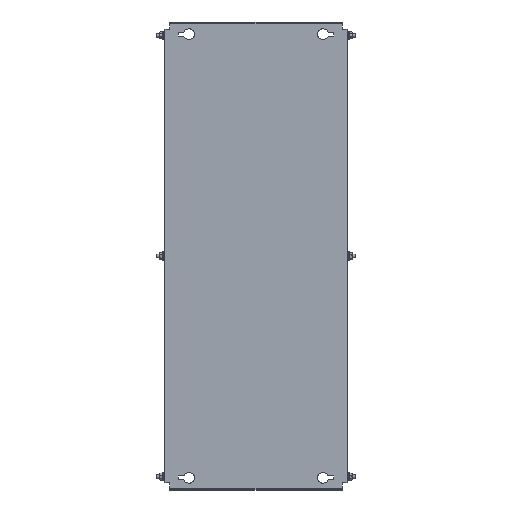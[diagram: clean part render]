
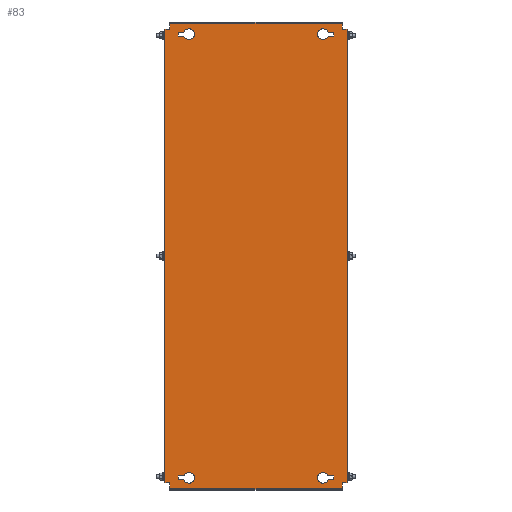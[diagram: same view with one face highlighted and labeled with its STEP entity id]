
A CAD part, top view. The second image highlights one B-rep face of the part: STEP entity #83.
In plain terms, the highlighted planar face has unit normal (0, 0, 1).
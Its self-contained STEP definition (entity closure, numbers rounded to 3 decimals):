
#83 = ADVANCED_FACE('',(#84,#119,#154,#316,#351),#386,.T.);
#84 = FACE_BOUND('',#85,.T.);
#85 = EDGE_LOOP('',(#86,#96,#104,#112));
#86 = ORIENTED_EDGE('',*,*,#87,.T.);
#87 = EDGE_CURVE('',#88,#90,#92,.T.);
#88 = VERTEX_POINT('',#89);
#89 = CARTESIAN_POINT('',(118.393,367.75,2.));
#90 = VERTEX_POINT('',#91);
#91 = CARTESIAN_POINT('',(128.,367.75,2.));
#92 = LINE('',#93,#94);
#93 = CARTESIAN_POINT('',(127.,367.75,2.));
#94 = VECTOR('',#95,1.);
#95 = DIRECTION('',(1.,0.,0.));
#96 = ORIENTED_EDGE('',*,*,#97,.T.);
#97 = EDGE_CURVE('',#90,#98,#100,.T.);
#98 = VERTEX_POINT('',#99);
#99 = CARTESIAN_POINT('',(128.,361.25,2.));
#100 = LINE('',#101,#102);
#101 = CARTESIAN_POINT('',(128.,367.75,2.));
#102 = VECTOR('',#103,1.);
#103 = DIRECTION('',(0.,-1.,0.));
#104 = ORIENTED_EDGE('',*,*,#105,.T.);
#105 = EDGE_CURVE('',#98,#106,#108,.T.);
#106 = VERTEX_POINT('',#107);
#107 = CARTESIAN_POINT('',(118.393,361.25,2.));
#108 = LINE('',#109,#110);
#109 = CARTESIAN_POINT('',(127.,361.25,2.));
#110 = VECTOR('',#111,1.);
#111 = DIRECTION('',(-1.,0.,0.));
#112 = ORIENTED_EDGE('',*,*,#113,.T.);
#113 = EDGE_CURVE('',#106,#88,#114,.T.);
#114 = CIRCLE('',#115,9.);
#115 = AXIS2_PLACEMENT_3D('',#116,#117,#118);
#116 = CARTESIAN_POINT('',(110.,364.5,2.));
#117 = DIRECTION('',(0.,0.,-1.));
#118 = DIRECTION('',(1.,0.,0.));
#119 = FACE_BOUND('',#120,.T.);
#120 = EDGE_LOOP('',(#121,#131,#139,#147));
#121 = ORIENTED_EDGE('',*,*,#122,.T.);
#122 = EDGE_CURVE('',#123,#125,#127,.T.);
#123 = VERTEX_POINT('',#124);
#124 = CARTESIAN_POINT('',(-118.393,-367.75,2.));
#125 = VERTEX_POINT('',#126);
#126 = CARTESIAN_POINT('',(-128.,-367.75,2.));
#127 = LINE('',#128,#129);
#128 = CARTESIAN_POINT('',(-127.,-367.75,2.));
#129 = VECTOR('',#130,1.);
#130 = DIRECTION('',(-1.,0.,0.));
#131 = ORIENTED_EDGE('',*,*,#132,.T.);
#132 = EDGE_CURVE('',#125,#133,#135,.T.);
#133 = VERTEX_POINT('',#134);
#134 = CARTESIAN_POINT('',(-128.,-361.25,2.));
#135 = LINE('',#136,#137);
#136 = CARTESIAN_POINT('',(-128.,-367.75,2.));
#137 = VECTOR('',#138,1.);
#138 = DIRECTION('',(0.,1.,0.));
#139 = ORIENTED_EDGE('',*,*,#140,.T.);
#140 = EDGE_CURVE('',#133,#141,#143,.T.);
#141 = VERTEX_POINT('',#142);
#142 = CARTESIAN_POINT('',(-118.393,-361.25,2.));
#143 = LINE('',#144,#145);
#144 = CARTESIAN_POINT('',(-127.,-361.25,2.));
#145 = VECTOR('',#146,1.);
#146 = DIRECTION('',(1.,-0.,-0.));
#147 = ORIENTED_EDGE('',*,*,#148,.T.);
#148 = EDGE_CURVE('',#141,#123,#149,.T.);
#149 = CIRCLE('',#150,9.);
#150 = AXIS2_PLACEMENT_3D('',#151,#152,#153);
#151 = CARTESIAN_POINT('',(-110.,-364.5,2.));
#152 = DIRECTION('',(0.,0.,-1.));
#153 = DIRECTION('',(-1.,0.,0.));
#154 = FACE_BOUND('',#155,.T.);
#155 = EDGE_LOOP('',(#156,#166,#174,#182,#190,#198,#206,#214,#222,#230,
    #238,#246,#254,#262,#270,#278,#286,#294,#302,#310));
#156 = ORIENTED_EDGE('',*,*,#157,.F.);
#157 = EDGE_CURVE('',#158,#160,#162,.T.);
#158 = VERTEX_POINT('',#159);
#159 = CARTESIAN_POINT('',(-147.4,372.5,2.));
#160 = VERTEX_POINT('',#161);
#161 = CARTESIAN_POINT('',(-142.,372.5,2.));
#162 = LINE('',#163,#164);
#163 = CARTESIAN_POINT('',(-148.,372.5,2.));
#164 = VECTOR('',#165,1.);
#165 = DIRECTION('',(1.,0.,-0.));
#166 = ORIENTED_EDGE('',*,*,#167,.T.);
#167 = EDGE_CURVE('',#158,#168,#170,.T.);
#168 = VERTEX_POINT('',#169);
#169 = CARTESIAN_POINT('',(-150.,372.5,2.));
#170 = LINE('',#171,#172);
#171 = CARTESIAN_POINT('',(-147.4,372.5,2.));
#172 = VECTOR('',#173,1.);
#173 = DIRECTION('',(-1.,0.,0.));
#174 = ORIENTED_EDGE('',*,*,#175,.F.);
#175 = EDGE_CURVE('',#176,#168,#178,.T.);
#176 = VERTEX_POINT('',#177);
#177 = CARTESIAN_POINT('',(-150.,-372.5,2.));
#178 = LINE('',#179,#180);
#179 = CARTESIAN_POINT('',(-150.,-382.5,2.));
#180 = VECTOR('',#181,1.);
#181 = DIRECTION('',(0.,1.,-0.));
#182 = ORIENTED_EDGE('',*,*,#183,.F.);
#183 = EDGE_CURVE('',#184,#176,#186,.T.);
#184 = VERTEX_POINT('',#185);
#185 = CARTESIAN_POINT('',(-147.4,-372.5,2.));
#186 = LINE('',#187,#188);
#187 = CARTESIAN_POINT('',(-142.,-372.5,2.));
#188 = VECTOR('',#189,1.);
#189 = DIRECTION('',(-1.,-0.,-0.));
#190 = ORIENTED_EDGE('',*,*,#191,.T.);
#191 = EDGE_CURVE('',#184,#192,#194,.T.);
#192 = VERTEX_POINT('',#193);
#193 = CARTESIAN_POINT('',(-142.,-372.5,2.));
#194 = LINE('',#195,#196);
#195 = CARTESIAN_POINT('',(-148.,-372.5,2.));
#196 = VECTOR('',#197,1.);
#197 = DIRECTION('',(1.,0.,-0.));
#198 = ORIENTED_EDGE('',*,*,#199,.T.);
#199 = EDGE_CURVE('',#192,#200,#202,.T.);
#200 = VERTEX_POINT('',#201);
#201 = CARTESIAN_POINT('',(-142.,-381.9,2.));
#202 = LINE('',#203,#204);
#203 = CARTESIAN_POINT('',(-142.,382.5,2.));
#204 = VECTOR('',#205,1.);
#205 = DIRECTION('',(0.,-1.,0.));
#206 = ORIENTED_EDGE('',*,*,#207,.T.);
#207 = EDGE_CURVE('',#200,#208,#210,.T.);
#208 = VERTEX_POINT('',#209);
#209 = CARTESIAN_POINT('',(-142.,-382.5,2.));
#210 = LINE('',#211,#212);
#211 = CARTESIAN_POINT('',(-142.,-381.9,2.));
#212 = VECTOR('',#213,1.);
#213 = DIRECTION('',(-0.,-1.,-0.));
#214 = ORIENTED_EDGE('',*,*,#215,.T.);
#215 = EDGE_CURVE('',#208,#216,#218,.T.);
#216 = VERTEX_POINT('',#217);
#217 = CARTESIAN_POINT('',(142.,-382.5,2.));
#218 = LINE('',#219,#220);
#219 = CARTESIAN_POINT('',(142.,-382.5,2.));
#220 = VECTOR('',#221,1.);
#221 = DIRECTION('',(1.,0.,0.));
#222 = ORIENTED_EDGE('',*,*,#223,.F.);
#223 = EDGE_CURVE('',#224,#216,#226,.T.);
#224 = VERTEX_POINT('',#225);
#225 = CARTESIAN_POINT('',(142.,-381.9,2.));
#226 = LINE('',#227,#228);
#227 = CARTESIAN_POINT('',(142.,-382.5,2.));
#228 = VECTOR('',#229,1.);
#229 = DIRECTION('',(0.,-1.,0.));
#230 = ORIENTED_EDGE('',*,*,#231,.T.);
#231 = EDGE_CURVE('',#224,#232,#234,.T.);
#232 = VERTEX_POINT('',#233);
#233 = CARTESIAN_POINT('',(142.,-372.5,2.));
#234 = LINE('',#235,#236);
#235 = CARTESIAN_POINT('',(142.,382.5,2.));
#236 = VECTOR('',#237,1.);
#237 = DIRECTION('',(0.,1.,-0.));
#238 = ORIENTED_EDGE('',*,*,#239,.F.);
#239 = EDGE_CURVE('',#240,#232,#242,.T.);
#240 = VERTEX_POINT('',#241);
#241 = CARTESIAN_POINT('',(147.4,-372.5,2.));
#242 = LINE('',#243,#244);
#243 = CARTESIAN_POINT('',(148.,-372.5,2.));
#244 = VECTOR('',#245,1.);
#245 = DIRECTION('',(-1.,0.,-0.));
#246 = ORIENTED_EDGE('',*,*,#247,.T.);
#247 = EDGE_CURVE('',#240,#248,#250,.T.);
#248 = VERTEX_POINT('',#249);
#249 = CARTESIAN_POINT('',(150.,-372.5,2.));
#250 = LINE('',#251,#252);
#251 = CARTESIAN_POINT('',(147.4,-372.5,2.));
#252 = VECTOR('',#253,1.);
#253 = DIRECTION('',(1.,-0.,0.));
#254 = ORIENTED_EDGE('',*,*,#255,.F.);
#255 = EDGE_CURVE('',#256,#248,#258,.T.);
#256 = VERTEX_POINT('',#257);
#257 = CARTESIAN_POINT('',(150.,372.5,2.));
#258 = LINE('',#259,#260);
#259 = CARTESIAN_POINT('',(150.,-382.5,2.));
#260 = VECTOR('',#261,1.);
#261 = DIRECTION('',(0.,-1.,-0.));
#262 = ORIENTED_EDGE('',*,*,#263,.F.);
#263 = EDGE_CURVE('',#264,#256,#266,.T.);
#264 = VERTEX_POINT('',#265);
#265 = CARTESIAN_POINT('',(147.4,372.5,2.));
#266 = LINE('',#267,#268);
#267 = CARTESIAN_POINT('',(-142.,372.5,2.));
#268 = VECTOR('',#269,1.);
#269 = DIRECTION('',(1.,-0.,0.));
#270 = ORIENTED_EDGE('',*,*,#271,.T.);
#271 = EDGE_CURVE('',#264,#272,#274,.T.);
#272 = VERTEX_POINT('',#273);
#273 = CARTESIAN_POINT('',(142.,372.5,2.));
#274 = LINE('',#275,#276);
#275 = CARTESIAN_POINT('',(148.,372.5,2.));
#276 = VECTOR('',#277,1.);
#277 = DIRECTION('',(-1.,0.,-0.));
#278 = ORIENTED_EDGE('',*,*,#279,.T.);
#279 = EDGE_CURVE('',#272,#280,#282,.T.);
#280 = VERTEX_POINT('',#281);
#281 = CARTESIAN_POINT('',(142.,381.9,2.));
#282 = LINE('',#283,#284);
#283 = CARTESIAN_POINT('',(142.,382.5,2.));
#284 = VECTOR('',#285,1.);
#285 = DIRECTION('',(0.,1.,-0.));
#286 = ORIENTED_EDGE('',*,*,#287,.T.);
#287 = EDGE_CURVE('',#280,#288,#290,.T.);
#288 = VERTEX_POINT('',#289);
#289 = CARTESIAN_POINT('',(142.,382.5,2.));
#290 = LINE('',#291,#292);
#291 = CARTESIAN_POINT('',(142.,381.9,2.));
#292 = VECTOR('',#293,1.);
#293 = DIRECTION('',(-0.,1.,-0.));
#294 = ORIENTED_EDGE('',*,*,#295,.T.);
#295 = EDGE_CURVE('',#288,#296,#298,.T.);
#296 = VERTEX_POINT('',#297);
#297 = CARTESIAN_POINT('',(-142.,382.5,2.));
#298 = LINE('',#299,#300);
#299 = CARTESIAN_POINT('',(-142.,382.5,2.));
#300 = VECTOR('',#301,1.);
#301 = DIRECTION('',(-1.,0.,0.));
#302 = ORIENTED_EDGE('',*,*,#303,.F.);
#303 = EDGE_CURVE('',#304,#296,#306,.T.);
#304 = VERTEX_POINT('',#305);
#305 = CARTESIAN_POINT('',(-142.,381.9,2.));
#306 = LINE('',#307,#308);
#307 = CARTESIAN_POINT('',(-142.,-382.5,2.));
#308 = VECTOR('',#309,1.);
#309 = DIRECTION('',(0.,1.,-0.));
#310 = ORIENTED_EDGE('',*,*,#311,.T.);
#311 = EDGE_CURVE('',#304,#160,#312,.T.);
#312 = LINE('',#313,#314);
#313 = CARTESIAN_POINT('',(-142.,382.5,2.));
#314 = VECTOR('',#315,1.);
#315 = DIRECTION('',(0.,-1.,0.));
#316 = FACE_BOUND('',#317,.T.);
#317 = EDGE_LOOP('',(#318,#328,#336,#344));
#318 = ORIENTED_EDGE('',*,*,#319,.F.);
#319 = EDGE_CURVE('',#320,#322,#324,.T.);
#320 = VERTEX_POINT('',#321);
#321 = CARTESIAN_POINT('',(128.,-361.25,2.));
#322 = VERTEX_POINT('',#323);
#323 = CARTESIAN_POINT('',(118.393,-361.25,2.));
#324 = LINE('',#325,#326);
#325 = CARTESIAN_POINT('',(118.393,-361.25,2.));
#326 = VECTOR('',#327,1.);
#327 = DIRECTION('',(-1.,0.,0.));
#328 = ORIENTED_EDGE('',*,*,#329,.F.);
#329 = EDGE_CURVE('',#330,#320,#332,.T.);
#330 = VERTEX_POINT('',#331);
#331 = CARTESIAN_POINT('',(128.,-367.75,2.));
#332 = LINE('',#333,#334);
#333 = CARTESIAN_POINT('',(128.,-361.25,2.));
#334 = VECTOR('',#335,1.);
#335 = DIRECTION('',(0.,1.,0.));
#336 = ORIENTED_EDGE('',*,*,#337,.F.);
#337 = EDGE_CURVE('',#338,#330,#340,.T.);
#338 = VERTEX_POINT('',#339);
#339 = CARTESIAN_POINT('',(118.393,-367.75,2.));
#340 = LINE('',#341,#342);
#341 = CARTESIAN_POINT('',(127.,-367.75,2.));
#342 = VECTOR('',#343,1.);
#343 = DIRECTION('',(1.,0.,0.));
#344 = ORIENTED_EDGE('',*,*,#345,.F.);
#345 = EDGE_CURVE('',#322,#338,#346,.T.);
#346 = CIRCLE('',#347,9.);
#347 = AXIS2_PLACEMENT_3D('',#348,#349,#350);
#348 = CARTESIAN_POINT('',(110.,-364.5,2.));
#349 = DIRECTION('',(0.,-0.,1.));
#350 = DIRECTION('',(1.,0.,0.));
#351 = FACE_BOUND('',#352,.T.);
#352 = EDGE_LOOP('',(#353,#363,#371,#379));
#353 = ORIENTED_EDGE('',*,*,#354,.F.);
#354 = EDGE_CURVE('',#355,#357,#359,.T.);
#355 = VERTEX_POINT('',#356);
#356 = CARTESIAN_POINT('',(-128.,361.25,2.));
#357 = VERTEX_POINT('',#358);
#358 = CARTESIAN_POINT('',(-118.393,361.25,2.));
#359 = LINE('',#360,#361);
#360 = CARTESIAN_POINT('',(-118.393,361.25,2.));
#361 = VECTOR('',#362,1.);
#362 = DIRECTION('',(1.,0.,0.));
#363 = ORIENTED_EDGE('',*,*,#364,.F.);
#364 = EDGE_CURVE('',#365,#355,#367,.T.);
#365 = VERTEX_POINT('',#366);
#366 = CARTESIAN_POINT('',(-128.,367.75,2.));
#367 = LINE('',#368,#369);
#368 = CARTESIAN_POINT('',(-128.,361.25,2.));
#369 = VECTOR('',#370,1.);
#370 = DIRECTION('',(0.,-1.,0.));
#371 = ORIENTED_EDGE('',*,*,#372,.F.);
#372 = EDGE_CURVE('',#373,#365,#375,.T.);
#373 = VERTEX_POINT('',#374);
#374 = CARTESIAN_POINT('',(-118.393,367.75,2.));
#375 = LINE('',#376,#377);
#376 = CARTESIAN_POINT('',(-127.,367.75,2.));
#377 = VECTOR('',#378,1.);
#378 = DIRECTION('',(-1.,0.,0.));
#379 = ORIENTED_EDGE('',*,*,#380,.F.);
#380 = EDGE_CURVE('',#357,#373,#381,.T.);
#381 = CIRCLE('',#382,9.);
#382 = AXIS2_PLACEMENT_3D('',#383,#384,#385);
#383 = CARTESIAN_POINT('',(-110.,364.5,2.));
#384 = DIRECTION('',(0.,-0.,1.));
#385 = DIRECTION('',(-1.,0.,0.));
#386 = PLANE('',#387);
#387 = AXIS2_PLACEMENT_3D('',#388,#389,#390);
#388 = CARTESIAN_POINT('',(-142.,-382.5,2.));
#389 = DIRECTION('',(-0.,0.,1.));
#390 = DIRECTION('',(1.,0.,0.));
